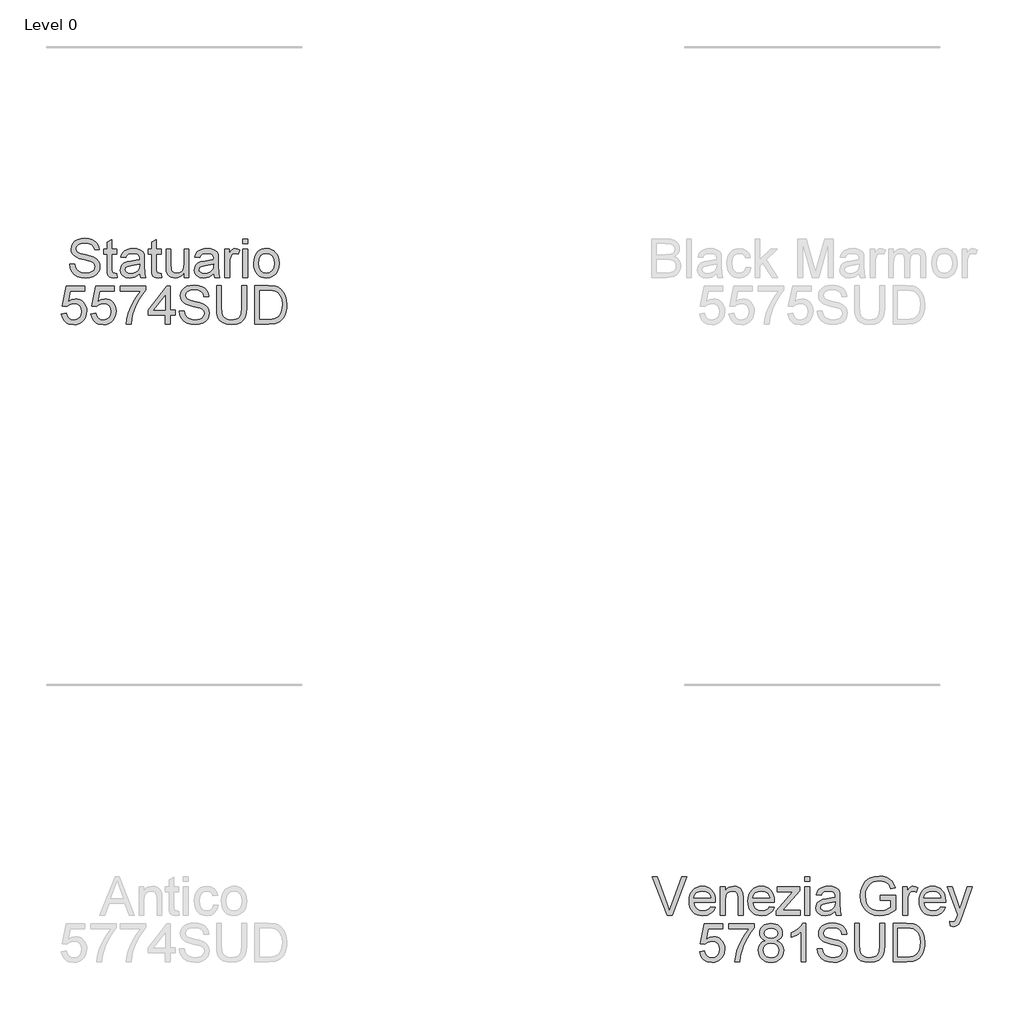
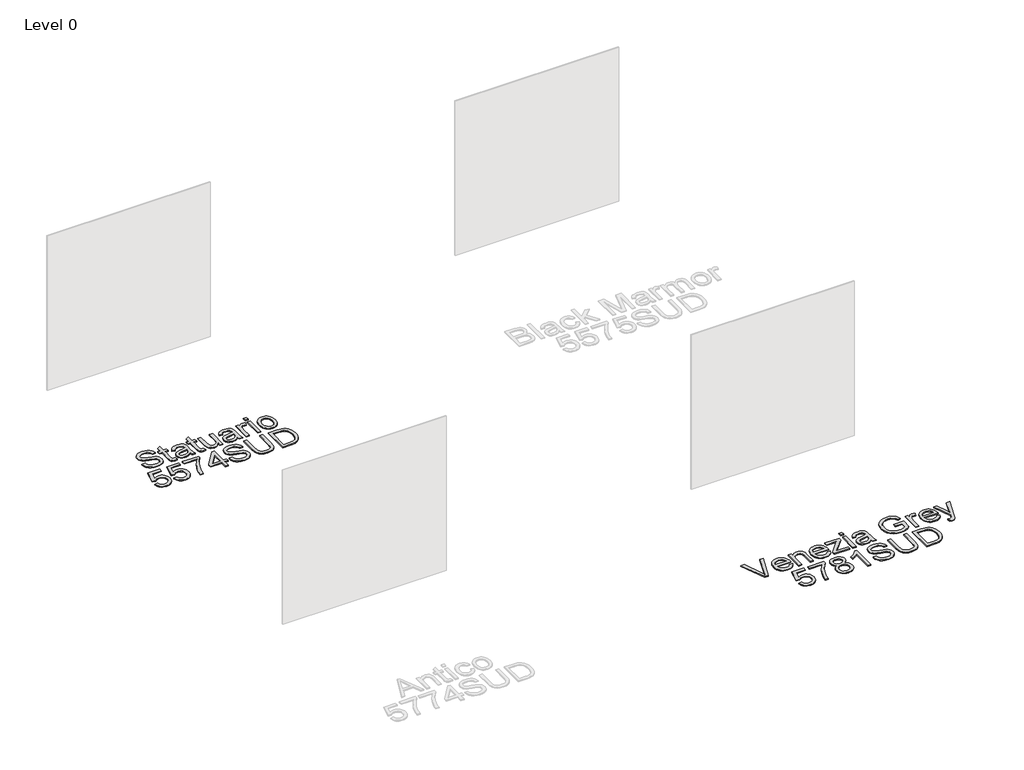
# One storey, part 4 of 12: 2 proxies.
"""IFC4 building model written with IfcOpenShell, lengths in millimetres."""

from ifc_helpers import new_model, si_unit, origin, origin_with_axes, place, context, project, spatial, polyline, outline, extrude, element, save

model = new_model("IFC4")

# Units and contexts
model_context = context("Model", 3, world=origin())
ifc_project = project(units=[si_unit("LENGTHUNIT", "METRE", prefix="MILLI")], contexts=[model_context])

# Site, building, storey
site = spatial("IfcSite", under=ifc_project)
building = spatial("IfcBuilding", under=site)
storey = spatial("IfcBuildingStorey", under=building, Name="Level 0", Elevation=0.0)

# Proxies
placement = place(None, origin())
element("IfcBuildingElementProxy", 1, Name="300mm Arial", ObjectType="300mm Arial", at=placement, inside=storey, context=model_context, shape_type="SweptSolid", body=[
    extrude(outline(polyline([(-10267.6503912, -6899.2649241), (-10229.9792749, -6899.2649241), (-10225.6566614, -6920.1698185), (-10217.839169, -6936.9728286), (-10205.6438809, -6950.308551), (-10188.1878802, -6960.8115819), (-10166.8507245, -6967.6265959), (-10143.0119712, -6969.8982672), (-10122.0243034, -6968.1784189), (-10103.6485977, -6963.0188739), (-10088.758574, -6954.8518936), (-10078.2279519, -6944.1097394), (-10071.9647609, -6931.7764955), (-10069.8770306, -6918.8362463), (-10071.4405291, -6906.2270909), (-10076.1310245, -6895.3285868), (-10085.6591682, -6886.0303694), (-10101.7356114, -6878.222074), (-10156.5868169, -6863.837888), (-10192.5932671, -6854.3189414), (-10215.6318771, -6845.2598472), (-10234.3846618, -6832.5863125), (-10247.6743989, -6817.2272392), (-10255.5930588, -6799.5137211), (-10258.2326121, -6779.7768521), (-10254.9676594, -6757.7131294), (-10245.1728013, -6737.1393289), (-10229.1055552, -6719.7017223), (-10207.0234384, -6707.0465817), (-10180.5175406, -6699.3486509), (-10151.1789515, -6696.782674), (-10119.3939471, -6699.4682126), (-10091.5820683, -6707.5248283), (-10068.7365964, -6720.7869742), (-10051.8508128, -6739.0891034), (-10041.1638409, -6761.2907818), (-10036.9148038, -6786.2515752), (-10074.5859201, -6786.2515752), (-10081.5021016, -6763.7739853), (-10095.9230758, -6747.5503893), (-10118.4558481, -6737.7279401), (-10149.7074235, -6734.4537903), (-10181.694763, -6737.6911519), (-10203.638924, -6747.4032365), (-10216.3308529, -6761.695452), (-10220.5614958, -6778.6732061), (-10217.5632576, -6793.1493626), (-10208.5685428, -6804.7928278), (-10187.3049634, -6815.2038882), (-10147.0586732, -6825.8356779), (-10105.5247959, -6835.9340387), (-10080.3984557, -6844.7448125), (-10058.9233442, -6858.4116286), (-10043.9413499, -6875.2790181), (-10035.1397732, -6895.1630399), (-10032.2059143, -6917.8797531), (-10035.5812316, -6941.102304), (-10045.7071835, -6962.9452975), (-10062.1699028, -6981.7440675), (-10084.5555222, -6995.8339479), (-10111.4752872, -7004.6355246), (-10141.5404432, -7007.5693835), (-10178.4482044, -7004.4055984), (-10208.8260602, -6994.9142429), (-10233.0234984, -6979.0585289), (-10251.390007, -6956.8016682), (-10263.180625, -6929.6887651), (-10267.6503912, -6899.2649241)])), origin_with_axes(), (0.0, 0.0, 1.0), 10.0),
    extrude(outline(polyline([(-9900.3570072, -6971.4433716), (-9895.6481177, -7003.96414), (-9923.8278785, -7007.5693835), (-9941.9092786, -7006.005885), (-9955.3921537, -7001.3153896), (-9964.9202974, -6994.0865084), (-9971.1375031, -6984.9078526), (-9974.5588056, -6969.1441091), (-9975.6992398, -6942.1599648), (-9975.6992398, -6819.213802), (-10003.9525771, -6819.213802), (-10003.9525771, -6781.5426857), (-9975.6992398, -6781.5426857), (-9975.6992398, -6727.758338), (-9938.0281235, -6705.6118419), (-9938.0281235, -6781.5426857), (-9900.3570072, -6781.5426857), (-9900.3570072, -6819.213802), (-9938.0281235, -6819.213802), (-9938.0281235, -6941.0563188), (-9936.0415607, -6960.4804881), (-9929.6036258, -6967.3598814), (-9916.7645442, -6969.8982672), (-9900.3570072, -6971.4433716)])), origin_with_axes(), (0.0, 0.0, 1.0), 10.0),
    extrude(outline(polyline([(-9721.4192048, -6974.6071568), (-9739.4178314, -6990.0398064), (-9757.9498869, -7000.1381672), (-9777.4384356, -7005.7115794), (-9798.3065417, -7007.5693835), (-9829.7880435, -7003.0996173), (-9853.0105944, -6989.6903186), (-9867.3304011, -6969.3280501), (-9872.10367, -6943.9993748), (-9870.3010482, -6928.3827841), (-9864.8931829, -6914.2009331), (-9856.5514586, -6902.0608273), (-9845.9472601, -6892.5694718), (-9819.5701211, -6880.2086368), (-9786.9757763, -6874.5432541), (-9748.4585314, -6868.5835657), (-9721.639934, -6861.5938078), (-9721.4192048, -6853.2060983), (-9724.0127728, -6836.3938912), (-9731.793477, -6825.3942195), (-9749.1942954, -6817.2272392), (-9773.4377189, -6814.5049125), (-9795.8785206, -6816.3167313), (-9811.5502936, -6821.7521878), (-9822.2372655, -6831.8045633), (-9829.7236641, -6847.4671392), (-9867.3947804, -6842.7582497), (-9860.855678, -6822.156858), (-9851.0976081, -6805.9700502), (-9837.2100627, -6793.590821), (-9818.2825341, -6784.4121652), (-9795.1335595, -6778.7283884), (-9768.5816765, -6776.8337961), (-9743.1150454, -6778.5076592), (-9722.9275209, -6783.5292485), (-9707.7064034, -6791.0800264), (-9697.1389931, -6800.3414556), (-9690.1308411, -6811.7917827), (-9685.5874984, -6825.9092543), (-9683.7480885, -6858.8714811), (-9683.7480885, -6905.7396473), (-9681.8351021, -6971.1858542), (-9674.3303094, -7002.860494), (-9712.0014257, -7002.860494), (-9721.4192048, -6974.6071568)]), holes=[polyline([(-9721.4192048, -6899.2649241), (-9782.1933104, -6910.8164188), (-9814.6037141, -6916.9232599), (-9829.2822057, -6926.8560738), (-9834.4325537, -6941.3506244), (-9831.6274535, -6952.5526311), (-9823.2121528, -6961.7312869), (-9809.3705928, -6967.8565221), (-9790.2867143, -6969.8982672), (-9770.0532045, -6967.64499), (-9752.1741396, -6960.8851583), (-9737.6795889, -6950.9247533), (-9727.5996223, -6939.069756), (-9723.129856, -6926.8560738), (-9721.639934, -6909.933502), (-9721.4192048, -6899.2649241)])]), origin_with_axes(), (0.0, 0.0, 1.0), 10.0),
    extrude(outline(polyline([(-9551.8991814, -6971.4433716), (-9547.1902918, -7003.96414), (-9575.3700527, -7007.5693835), (-9593.4514527, -7006.005885), (-9606.9343279, -7001.3153896), (-9616.4624715, -6994.0865084), (-9622.6796773, -6984.9078526), (-9626.1009798, -6969.1441091), (-9627.241414, -6942.1599648), (-9627.241414, -6819.213802), (-9655.4947512, -6819.213802), (-9655.4947512, -6781.5426857), (-9627.241414, -6781.5426857), (-9627.241414, -6727.758338), (-9589.5702977, -6705.6118419), (-9589.5702977, -6781.5426857), (-9551.8991814, -6781.5426857), (-9551.8991814, -6819.213802), (-9589.5702977, -6819.213802), (-9589.5702977, -6941.0563188), (-9587.5837349, -6960.4804881), (-9581.1458, -6967.3598814), (-9568.3067184, -6969.8982672), (-9551.8991814, -6971.4433716)])), origin_with_axes(), (0.0, 0.0, 1.0), 10.0),
    extrude(outline(polyline([(-9372.9613789, -7002.860494), (-9372.9613789, -6964.8214957), (-9386.5914068, -6983.5236966), (-9402.4655149, -6996.8824116), (-9420.5837032, -7004.8976405), (-9440.9459716, -7007.5693835), (-9459.2940861, -7005.6931853), (-9476.3730078, -7000.0645908), (-9490.7020115, -6991.6033049), (-9500.8003722, -6981.2290327), (-9512.0207731, -6953.4907302), (-9514.2280651, -6918.4683643), (-9514.2280651, -6781.5426857), (-9476.5569488, -6781.5426857), (-9476.5569488, -6900.7364521), (-9474.2760804, -6939.1433324), (-9468.7854416, -6951.9548229), (-9459.3768596, -6961.6944987), (-9446.6757337, -6967.8473251), (-9431.3074634, -6969.8982672), (-9415.0562762, -6967.8013398), (-9399.8535528, -6961.5105577), (-9387.3179738, -6951.605335), (-9379.06822, -6938.6650858), (-9374.4880892, -6920.9423707), (-9372.9613789, -6896.6897502), (-9372.9613789, -6781.5426857), (-9335.2902626, -6781.5426857), (-9335.2902626, -7002.860494), (-9372.9613789, -7002.860494)])), origin_with_axes(), (0.0, 0.0, 1.0), 10.0),
    extrude(outline(polyline([(-9142.2257916, -6974.6071568), (-9160.2244182, -6990.0398064), (-9178.7564737, -7000.1381672), (-9198.2450224, -7005.7115794), (-9219.1131285, -7007.5693835), (-9250.5946303, -7003.0996173), (-9273.8171812, -6989.6903186), (-9288.1369879, -6969.3280501), (-9292.9102568, -6943.9993748), (-9291.107635, -6928.3827841), (-9285.6997697, -6914.2009331), (-9277.3580454, -6902.0608273), (-9266.7538469, -6892.5694718), (-9240.3767079, -6880.2086368), (-9207.7823631, -6874.5432541), (-9169.2651182, -6868.5835657), (-9142.4465207, -6861.5938078), (-9142.2257916, -6853.2060983), (-9144.8193596, -6836.3938912), (-9152.6000638, -6825.3942195), (-9170.0008822, -6817.2272392), (-9194.2443057, -6814.5049125), (-9216.6851074, -6816.3167313), (-9232.3568804, -6821.7521878), (-9243.0438523, -6831.8045633), (-9250.5302509, -6847.4671392), (-9288.2013672, -6842.7582497), (-9281.6622648, -6822.156858), (-9271.9041949, -6805.9700502), (-9258.0166495, -6793.590821), (-9239.0891209, -6784.4121652), (-9215.9401463, -6778.7283884), (-9189.3882633, -6776.8337961), (-9163.9216322, -6778.5076592), (-9143.7341077, -6783.5292485), (-9128.5129902, -6791.0800264), (-9117.9455799, -6800.3414556), (-9110.9374279, -6811.7917827), (-9106.3940852, -6825.9092543), (-9104.5546752, -6858.8714811), (-9104.5546752, -6905.7396473), (-9102.6416889, -6971.1858542), (-9095.1368962, -7002.860494), (-9132.8080125, -7002.860494), (-9142.2257916, -6974.6071568)]), holes=[polyline([(-9142.2257916, -6899.2649241), (-9202.9998972, -6910.8164188), (-9235.4103009, -6916.9232599), (-9250.0887925, -6926.8560738), (-9255.2391405, -6941.3506244), (-9252.4340403, -6952.5526311), (-9244.0187396, -6961.7312869), (-9230.1771795, -6967.8565221), (-9211.093301, -6969.8982672), (-9190.8597913, -6967.64499), (-9172.9807263, -6960.8851583), (-9158.4861757, -6950.9247533), (-9148.4062091, -6939.069756), (-9143.9364428, -6926.8560738), (-9142.4465207, -6909.933502), (-9142.2257916, -6899.2649241)])]), origin_with_axes(), (0.0, 0.0, 1.0), 10.0),
    extrude(outline(polyline([(-9052.7568903, -7002.860494), (-9052.7568903, -6781.5426857), (-9019.7946636, -6781.5426857), (-9019.7946636, -6814.2841833), (-9007.6177695, -6795.3014723), (-8996.3973687, -6784.1178596), (-8985.1401796, -6778.654812), (-8972.852921, -6776.8337961), (-8954.0909392, -6779.7400639), (-8935.0346519, -6788.4588672), (-8947.6162161, -6822.2304343), (-8960.8599679, -6816.4362929), (-8974.1037198, -6814.5049125), (-8985.3517118, -6816.3627165), (-8995.4040873, -6821.9361288), (-9003.5250823, -6830.8020848), (-9008.9789329, -6842.5375205), (-9013.5590637, -6863.5803706), (-9015.085774, -6886.5362071), (-9015.085774, -7002.860494), (-9052.7568903, -7002.860494)])), origin_with_axes(), (0.0, 0.0, 1.0), 10.0),
    extrude(outline(polyline([(-8911.4902042, -6739.1626798), (-8911.4902042, -6701.4915635), (-8873.8190879, -6701.4915635), (-8873.8190879, -6739.1626798), (-8911.4902042, -6739.1626798)])), origin_with_axes(), (0.0, 0.0, 1.0), 10.0),
    extrude(outline(polyline([(-8911.4902042, -7002.860494), (-8911.4902042, -6781.5426857), (-8873.8190879, -6781.5426857), (-8873.8190879, -7002.860494), (-8911.4902042, -7002.860494)])), origin_with_axes(), (0.0, 0.0, 1.0), 10.0),
    extrude(outline(polyline([(-8826.7301925, -6892.2015898), (-8824.6930459, -6863.5389839), (-8818.5816063, -6838.8403064), (-8808.3958736, -6818.1055575), (-8794.1358477, -6801.334737), (-8779.7792529, -6790.6155754), (-8763.9327359, -6782.9590314), (-8746.5962969, -6778.3651049), (-8727.7699358, -6776.8337961), (-8706.9869023, -6778.698498), (-8688.1950302, -6784.2926036), (-8671.3943193, -6793.6161129), (-8656.5847697, -6806.669026), (-8644.4975469, -6823.0098843), (-8635.8638163, -6842.1972296), (-8630.683578, -6864.2310619), (-8628.9568319, -6889.1113811), (-8632.0102524, -6927.1687735), (-8641.1705141, -6956.1394806), (-8656.1709025, -6977.8353213), (-8676.7447031, -6994.0681143), (-8701.1812646, -7004.1940662), (-8727.7699358, -7007.5693835), (-8748.8564719, -7005.7115794), (-8767.823088, -7000.1381672), (-8784.6697841, -6990.8491468), (-8799.3965602, -6977.8445183), (-8811.3550244, -6961.3450108), (-8819.8967844, -6941.5713536), (-8825.0218405, -6918.5235466), (-8826.7301925, -6892.2015898)]), holes=[polyline([(-8789.0590762, -6892.1280134), (-8784.6996745, -6926.2214773), (-8771.6214696, -6950.5108861), (-8751.9397829, -6965.0514219), (-8727.7699358, -6969.8982672), (-8703.7104533, -6965.0238308), (-8684.0655548, -6950.4005215), (-8670.9873498, -6925.789216), (-8666.6279482, -6890.950791), (-8671.014941, -6857.8506085), (-8684.1759194, -6833.8922936), (-8703.848409, -6819.3517577), (-8727.7699358, -6814.5049125), (-8751.9397829, -6819.3333636), (-8771.6214696, -6833.8187172), (-8784.6996745, -6858.0529436), (-8789.0590762, -6892.1280134)])]), origin_with_axes(), (0.0, 0.0, 1.0), 10.0),
    extrude(outline(polyline([(-10333.5748447, -7288.7338254), (-10295.9037284, -7284.0249358), (-10288.9875469, -7306.6404815), (-10276.9210175, -7322.8364863), (-10259.7593224, -7332.5761621), (-10237.557644, -7335.8227207), (-10210.5551055, -7331.3069693), (-10190.3215958, -7317.7597148), (-10177.6848493, -7296.7444558), (-10173.4726004, -7269.8246908), (-10177.4181348, -7244.4776213), (-10189.254738, -7225.0902402), (-10209.0743805, -7212.7845875), (-10236.9690328, -7208.6827032), (-10255.2435709, -7210.3197781), (-10270.0416242, -7215.2310027), (-10291.1948389, -7232.2271509), (-10328.8659552, -7227.5182614), (-10295.9037284, -7072.1249066), (-10149.9281527, -7072.1249066), (-10149.9281527, -7109.7960229), (-10265.4430992, -7109.7960229), (-10281.5563306, -7192.790201), (-10254.6457627, -7176.4562404), (-10226.4476077, -7171.0115869), (-10208.1017925, -7172.6992456), (-10191.2504978, -7177.7622215), (-10175.8937238, -7186.2005148), (-10162.0314704, -7198.0141254), (-10150.5558514, -7212.4810848), (-10142.3589807, -7228.8794248), (-10137.4408583, -7247.2091452), (-10135.8014841, -7267.470246), (-10141.7059901, -7305.1413624), (-10149.0866227, -7321.9351754), (-10159.4195082, -7337.3678251), (-10175.0728871, -7353.1729553), (-10193.3382282, -7364.4623341), (-10214.2155314, -7371.2359613), (-10237.7047968, -7373.4938371), (-10274.7045285, -7367.6904986), (-10290.3831992, -7360.4363255), (-10304.1810733, -7350.2804832), (-10315.6612908, -7337.7288093), (-10324.3869919, -7323.2871418), (-10333.5748447, -7288.7338254)])), origin_with_axes(), (0.0, 0.0, 1.0), 10.0),
    extrude(outline(polyline([(-10102.8392574, -7288.7338254), (-10065.1681411, -7284.0249358), (-10058.2519595, -7306.6404815), (-10046.1854301, -7322.8364863), (-10029.023735, -7332.5761621), (-10006.8220566, -7335.8227207), (-9979.8195182, -7331.3069693), (-9959.5860084, -7317.7597148), (-9946.9492619, -7296.7444558), (-9942.7370131, -7269.8246908), (-9946.6825475, -7244.4776213), (-9958.5191506, -7225.0902402), (-9978.3387931, -7212.7845875), (-10006.2334454, -7208.6827032), (-10024.5079835, -7210.3197781), (-10039.3060368, -7215.2310027), (-10060.4592515, -7232.2271509), (-10098.1303678, -7227.5182614), (-10065.1681411, -7072.1249066), (-9919.1925654, -7072.1249066), (-9919.1925654, -7109.7960229), (-10034.7075119, -7109.7960229), (-10050.8207432, -7192.790201), (-10023.9101753, -7176.4562404), (-9995.7120204, -7171.0115869), (-9977.3662051, -7172.6992456), (-9960.5149105, -7177.7622215), (-9945.1581364, -7186.2005148), (-9931.295883, -7198.0141254), (-9919.820264, -7212.4810848), (-9911.6233933, -7228.8794248), (-9906.7052709, -7247.2091452), (-9905.0658967, -7267.470246), (-9910.9704028, -7305.1413624), (-9918.3510353, -7321.9351754), (-9928.6839208, -7337.3678251), (-9944.3372997, -7353.1729553), (-9962.6026408, -7364.4623341), (-9983.479944, -7371.2359613), (-10006.9692094, -7373.4938371), (-10043.9689411, -7367.6904986), (-10059.6476119, -7360.4363255), (-10073.4454859, -7350.2804832), (-10084.9257035, -7337.7288093), (-10093.6514045, -7323.2871418), (-10102.8392574, -7288.7338254)])), origin_with_axes(), (0.0, 0.0, 1.0), 10.0),
    extrude(outline(polyline([(-9872.10367, -7109.7960229), (-9872.10367, -7072.1249066), (-9674.3303094, -7072.1249066), (-9674.3303094, -7102.5855358), (-9702.5192673, -7138.2608923), (-9730.4323136, -7183.6299393), (-9755.0528162, -7234.5540045), (-9773.3641425, -7286.8944154), (-9782.3404632, -7326.0554538), (-9787.3436583, -7368.7849475), (-9825.0147746, -7368.7849475), (-9820.9404815, -7329.9550029), (-9810.0419774, -7283.8042066), (-9792.6135679, -7234.8850983), (-9768.9495585, -7187.7502177), (-9741.3216207, -7145.1402856), (-9712.0014257, -7109.7960229), (-9872.10367, -7109.7960229)])), origin_with_axes(), (0.0, 0.0, 1.0), 10.0),
    extrude(outline(polyline([(-9518.9369546, -7368.7849475), (-9518.9369546, -7298.1516044), (-9655.4947512, -7298.1516044), (-9655.4947512, -7260.4804881), (-9509.5191755, -7072.1249066), (-9481.2658383, -7072.1249066), (-9481.2658383, -7260.4804881), (-9443.594722, -7260.4804881), (-9443.594722, -7298.1516044), (-9481.2658383, -7298.1516044), (-9481.2658383, -7368.7849475), (-9518.9369546, -7368.7849475)]), holes=[polyline([(-9518.9369546, -7260.4804881), (-9518.9369546, -7144.0826249), (-9609.1416198, -7260.4804881), (-9518.9369546, -7260.4804881)])]), origin_with_axes(), (0.0, 0.0, 1.0), 10.0),
    extrude(outline(polyline([(-9410.6324952, -7265.1893777), (-9372.9613789, -7265.1893777), (-9368.6387655, -7286.0942721), (-9360.8212731, -7302.8972822), (-9348.6259849, -7316.2330045), (-9331.1699843, -7326.7360355), (-9309.8328286, -7333.5510494), (-9285.9940753, -7335.8227207), (-9265.0064074, -7334.1028724), (-9246.6307018, -7328.9433274), (-9231.740678, -7320.7763471), (-9221.2100559, -7310.0341929), (-9214.9468649, -7297.700949), (-9212.8591346, -7284.7606998), (-9214.4226331, -7272.1515444), (-9219.1131285, -7261.2530403), (-9228.6412722, -7251.9548229), (-9244.7177154, -7244.1465276), (-9299.5689209, -7229.7623415), (-9335.5753712, -7220.2433949), (-9358.6139811, -7211.1843008), (-9377.3667658, -7198.510766), (-9390.6565029, -7183.1516928), (-9398.5751628, -7165.4381747), (-9401.2147162, -7145.7013056), (-9397.9497634, -7123.637583), (-9388.1549053, -7103.0637824), (-9372.0876592, -7085.6261758), (-9350.0055424, -7072.9710352), (-9323.4996447, -7065.2731044), (-9294.1610556, -7062.7071275), (-9262.3760512, -7065.3926661), (-9234.5641723, -7073.4492818), (-9211.7187004, -7086.7114277), (-9194.8329169, -7105.013557), (-9184.1459449, -7127.2152354), (-9179.8969079, -7152.1760288), (-9217.5680242, -7152.1760288), (-9224.4842057, -7129.6984389), (-9238.9051799, -7113.4748429), (-9261.4379521, -7103.6523936), (-9292.6895276, -7100.3782438), (-9324.6768671, -7103.6156054), (-9346.6210281, -7113.3276901), (-9359.3129569, -7127.6199056), (-9363.5435998, -7144.5976597), (-9360.5453616, -7159.0738162), (-9351.5506468, -7170.7172813), (-9330.2870675, -7181.1283418), (-9290.0407772, -7191.7601314), (-9248.5069, -7201.8584922), (-9223.3805597, -7210.669266), (-9201.9054482, -7224.3360821), (-9186.923454, -7241.2034716), (-9178.1218772, -7261.0874934), (-9175.1880183, -7283.8042066), (-9178.5633356, -7307.0267576), (-9188.6892875, -7328.869751), (-9205.1520068, -7347.668521), (-9227.5376262, -7361.7584014), (-9254.4573912, -7370.5599781), (-9284.5225473, -7373.4938371), (-9321.4303085, -7370.3300519), (-9351.8081642, -7360.8386964), (-9376.0056024, -7344.9829824), (-9394.372111, -7322.7261217), (-9406.162729, -7295.6132187), (-9410.6324952, -7265.1893777)])), origin_with_axes(), (0.0, 0.0, 1.0), 10.0),
    extrude(outline(polyline([(-8920.9079833, -7067.4160171), (-8883.2368669, -7067.4160171), (-8883.2368669, -7241.277048), (-8885.7936468, -7281.9923878), (-8893.4639864, -7313.3451308), (-8907.7929901, -7337.533372), (-8930.3257623, -7356.7552063), (-8961.1174853, -7369.3091794), (-9000.2233414, -7373.4938371), (-9038.4738719, -7369.8518053), (-9069.0540627, -7358.92571), (-9091.973111, -7341.0926303), (-9107.2402138, -7316.7296452), (-9115.8210613, -7284.052527), (-9118.6813439, -7241.277048), (-9118.6813439, -7067.4160171), (-9081.0102276, -7067.4160171), (-9081.0102276, -7239.9526728), (-9079.1524235, -7273.8070134), (-9073.5790113, -7297.3790523), (-9063.4806505, -7313.7038158), (-9048.0480008, -7325.8163305), (-9027.9248556, -7333.3211232), (-9003.7550086, -7335.8227207), (-8965.4400988, -7330.8747079), (-8951.0972995, -7324.6896919), (-8939.9642706, -7316.0306694), (-8931.6271449, -7303.8537754), (-8925.6720551, -7287.1151446), (-8920.9079833, -7239.9526728), (-8920.9079833, -7067.4160171)])), origin_with_axes(), (0.0, 0.0, 1.0), 10.0),
    extrude(outline(polyline([(-8817.3124134, -7368.7849475), (-8817.3124134, -7067.4160171), (-8713.3489616, -7067.4160171), (-8659.5646139, -7071.7570246), (-8635.5419196, -7080.12634), (-8615.2716217, -7093.3149095), (-8594.4311066, -7116.270746), (-8579.5870681, -7144.8183889), (-8570.7027179, -7178.406015), (-8567.7412679, -7216.4818015), (-8569.7462248, -7248.8278259), (-8575.7610954, -7277.2926953), (-8584.9213571, -7301.5269217), (-8596.3624871, -7321.1810173), (-8609.5326625, -7336.6964405), (-8623.8800603, -7348.5146496), (-8640.3519767, -7357.2794381), (-8659.8957077, -7363.6345996), (-8708.3457664, -7368.7849475), (-8817.3124134, -7368.7849475)]), holes=[polyline([(-8779.6412971, -7331.1138312), (-8712.9810796, -7331.1138312), (-8685.408324, -7329.7526678), (-8664.4942326, -7325.6691777), (-8648.712095, -7319.1024841), (-8636.535201, -7310.2917103), (-8623.447799, -7293.9853408), (-8613.6161527, -7272.8781114), (-8607.4633263, -7246.8780514), (-8605.4123842, -7215.8931903), (-8609.431495, -7174.8375597), (-8621.4888274, -7144.5240833), (-8639.303513, -7123.7019623), (-8660.5946835, -7111.1203981), (-8682.262933, -7106.5954496), (-8714.0111492, -7105.0871334), (-8779.6412971, -7105.0871334), (-8779.6412971, -7331.1138312)])]), origin_with_axes(), (0.0, 0.0, 1.0), 10.0),
])
element("IfcBuildingElementProxy", 2, Name="300mm Arial", ObjectType="300mm Arial", at=placement, inside=storey, context=model_context, shape_type="SweptSolid", body=[
    extrude(outline(polyline([(-5585.9418934, -12002.860494), (-5705.8714239, -11701.4915635), (-5665.5515572, -11701.4915635), (-5585.2797058, -11918.6155171), (-5569.0193216, -11967.5438224), (-5552.9796667, -11918.6155171), (-5472.4870861, -11701.4915635), (-5432.1672194, -11701.4915635), (-5547.0199783, -12002.860494), (-5585.9418934, -12002.860494)])), origin_with_axes(), (0.0, 0.0, 1.0), 10.0),
    extrude(outline(polyline([(-5246.9018467, -11936.9360404), (-5209.9664944, -11941.64493), (-5223.2746255, -11969.4752029), (-5244.5106137, -11990.2789297), (-5273.1962123, -12003.2467701), (-5308.8531747, -12007.5693835), (-5332.2274769, -12005.7046817), (-5353.0541964, -12000.1105761), (-5371.333333, -11990.7870668), (-5387.0648868, -11977.7341537), (-5399.7154289, -11961.3151204), (-5408.7515304, -11941.8932503), (-5414.1731913, -11919.4685435), (-5415.9804117, -11894.0409998), (-5414.1547973, -11867.7512327), (-5408.677954, -11844.5792656), (-5399.549882, -11824.5250983), (-5386.7705812, -11807.5887309), (-5371.0804141, -11794.133447), (-5353.2197433, -11784.5225298), (-5333.1885686, -11778.7559796), (-5310.9868902, -11776.8337961), (-5289.5002824, -11778.751381), (-5270.0692153, -11784.5041357), (-5252.6936888, -11794.0920602), (-5237.373703, -11807.5151545), (-5224.8680144, -11824.4147337), (-5215.9353797, -11844.4321128), (-5210.5757989, -11867.5672917), (-5208.789272, -11893.8202706), (-5209.0100012, -11903.9738137), (-5378.3092953, -11903.9738137), (-5371.788587, -11932.1719686), (-5356.6410458, -11952.902119), (-5334.7796583, -11965.6492302), (-5308.1174107, -11969.8982672), (-5288.0678419, -11967.9300985), (-5271.1820583, -11962.0255925), (-5257.4600599, -11951.8168672), (-5246.9018467, -11936.9360404)]), holes=[polyline([(-5378.3092953, -11866.3026974), (-5246.4603883, -11866.3026974), (-5251.5555539, -11846.4002814), (-5261.5435501, -11832.1632482), (-5283.5061052, -11818.9194964), (-5311.134043, -11814.5049125), (-5336.5270977, -11818.0273826), (-5357.5239626, -11828.5947929), (-5372.1196808, -11845.0667092), (-5378.3092953, -11866.3026974)])]), origin_with_axes(), (0.0, 0.0, 1.0), 10.0),
    extrude(outline(polyline([(-5171.1181557, -12002.860494), (-5171.1181557, -11781.5426857), (-5133.4470394, -11781.5426857), (-5133.4470394, -11812.4447733), (-5120.3596374, -11796.8649708), (-5104.6418791, -11785.7365404), (-5086.2937646, -11779.0594822), (-5065.3152938, -11776.8337961), (-5046.7464501, -11778.6272209), (-5029.7411049, -11784.0074951), (-5015.559254, -11792.303234), (-5005.4608932, -11802.8430532), (-4994.166916, -11830.5445674), (-4992.1803532, -11866.964885), (-4992.1803532, -12002.860494), (-5029.8514695, -12002.860494), (-5029.8514695, -11872.0416565), (-5034.1924771, -11838.7115477), (-5040.1981506, -11828.7879309), (-5049.5331563, -11821.0900002), (-5061.4985181, -11816.1511844), (-5075.3952605, -11814.5049125), (-5097.4589832, -11818.2021265), (-5116.2669502, -11829.2937687), (-5123.7832392, -11838.3482643), (-5129.1520171, -11850.7228949), (-5133.4470394, -11885.4325611), (-5133.4470394, -12002.860494), (-5171.1181557, -12002.860494)])), origin_with_axes(), (0.0, 0.0, 1.0), 10.0),
    extrude(outline(polyline([(-4785.4306719, -11936.9360404), (-4748.4953196, -11941.64493), (-4761.8034508, -11969.4752029), (-4783.0394389, -11990.2789297), (-4811.7250375, -12003.2467701), (-4847.3819999, -12007.5693835), (-4870.7563022, -12005.7046817), (-4891.5830216, -12000.1105761), (-4909.8621583, -11990.7870668), (-4925.5937121, -11977.7341537), (-4938.2442542, -11961.3151204), (-4947.2803557, -11941.8932503), (-4952.7020166, -11919.4685435), (-4954.5092369, -11894.0409998), (-4952.6836225, -11867.7512327), (-4947.2067793, -11844.5792656), (-4938.0787073, -11824.5250983), (-4925.2994065, -11807.5887309), (-4909.6092394, -11794.133447), (-4891.7485685, -11784.5225298), (-4871.7173939, -11778.7559796), (-4849.5157155, -11776.8337961), (-4828.0291077, -11778.751381), (-4808.5980406, -11784.5041357), (-4791.2225141, -11794.0920602), (-4775.9025282, -11807.5151545), (-4763.3968397, -11824.4147337), (-4754.464205, -11844.4321128), (-4749.1046242, -11867.5672917), (-4747.3180972, -11893.8202706), (-4747.5388264, -11903.9738137), (-4916.8381206, -11903.9738137), (-4910.3174122, -11932.1719686), (-4895.1698711, -11952.902119), (-4873.3084835, -11965.6492302), (-4846.6462359, -11969.8982672), (-4826.5966672, -11967.9300985), (-4809.7108836, -11962.0255925), (-4795.9888852, -11951.8168672), (-4785.4306719, -11936.9360404)]), holes=[polyline([(-4916.8381206, -11866.3026974), (-4784.9892135, -11866.3026974), (-4790.0843792, -11846.4002814), (-4800.0723753, -11832.1632482), (-4822.0349304, -11818.9194964), (-4849.6628683, -11814.5049125), (-4875.055923, -11818.0273826), (-4896.0527879, -11828.5947929), (-4910.648506, -11845.0667092), (-4916.8381206, -11866.3026974)])]), origin_with_axes(), (0.0, 0.0, 1.0), 10.0),
    extrude(outline(polyline([(-4733.1914286, -12002.860494), (-4733.1914286, -11967.3966696), (-4603.1819315, -11819.213802), (-4641.6623882, -11819.213802), (-4723.7736495, -11819.213802), (-4723.7736495, -11781.5426857), (-4549.5447366, -11781.5426857), (-4549.5447366, -11813.5484193), (-4664.8389539, -11945.0294443), (-4682.4972897, -11965.1893777), (-4638.9400614, -11965.1893777), (-4544.8358471, -11965.1893777), (-4544.8358471, -12002.860494), (-4733.1914286, -12002.860494)])), origin_with_axes(), (0.0, 0.0, 1.0), 10.0),
    extrude(outline(polyline([(-4507.1647308, -11739.1626798), (-4507.1647308, -11701.4915635), (-4469.4936145, -11701.4915635), (-4469.4936145, -11739.1626798), (-4507.1647308, -11739.1626798)])), origin_with_axes(), (0.0, 0.0, 1.0), 10.0),
    extrude(outline(polyline([(-4507.1647308, -12002.860494), (-4507.1647308, -11781.5426857), (-4469.4936145, -11781.5426857), (-4469.4936145, -12002.860494), (-4507.1647308, -12002.860494)])), origin_with_axes(), (0.0, 0.0, 1.0), 10.0),
    extrude(outline(polyline([(-4271.7202539, -11974.6071568), (-4289.7188805, -11990.0398064), (-4308.250936, -12000.1381672), (-4327.7394847, -12005.7115794), (-4348.6075908, -12007.5693835), (-4380.0890926, -12003.0996173), (-4403.3116435, -11989.6903186), (-4417.6314502, -11969.3280501), (-4422.4047191, -11943.9993748), (-4420.6020973, -11928.3827841), (-4415.194232, -11914.2009331), (-4406.8525077, -11902.0608273), (-4396.2483092, -11892.5694718), (-4369.8711702, -11880.2086368), (-4337.2768254, -11874.5432541), (-4298.7595805, -11868.5835657), (-4271.9409831, -11861.5938078), (-4271.7202539, -11853.2060983), (-4274.3138219, -11836.3938912), (-4282.0945261, -11825.3942195), (-4299.4953445, -11817.2272392), (-4323.738768, -11814.5049125), (-4346.1795697, -11816.3167313), (-4361.8513427, -11821.7521878), (-4372.5383146, -11831.8045633), (-4380.0247132, -11847.4671392), (-4417.6958295, -11842.7582497), (-4411.1567271, -11822.156858), (-4401.3986572, -11805.9700502), (-4387.5111118, -11793.590821), (-4368.5835832, -11784.4121652), (-4345.4346086, -11778.7283884), (-4318.8827256, -11776.8337961), (-4293.4160945, -11778.5076592), (-4273.22857, -11783.5292485), (-4258.0074525, -11791.0800264), (-4247.4400422, -11800.3414556), (-4240.4318902, -11811.7917827), (-4235.8885475, -11825.9092543), (-4234.0491375, -11858.8714811), (-4234.0491375, -11905.7396473), (-4232.1361512, -11971.1858542), (-4224.6313585, -12002.860494), (-4262.3024748, -12002.860494), (-4271.7202539, -11974.6071568)]), holes=[polyline([(-4271.7202539, -11899.2649241), (-4332.4943595, -11910.8164188), (-4364.9047632, -11916.9232599), (-4379.5832548, -11926.8560738), (-4384.7336028, -11941.3506244), (-4381.9285026, -11952.5526311), (-4373.5132019, -11961.7312869), (-4359.6716419, -11967.8565221), (-4340.5877634, -11969.8982672), (-4320.3542536, -11967.64499), (-4302.4751887, -11960.8851583), (-4287.980638, -11950.9247533), (-4277.9006714, -11939.069756), (-4273.4309051, -11926.8560738), (-4271.9409831, -11909.933502), (-4271.7202539, -11899.2649241)])]), origin_with_axes(), (0.0, 0.0, 1.0), 10.0),
    extrude(outline(polyline([(-3918.5535385, -11885.1382555), (-3918.5535385, -11847.4671392), (-3796.1224105, -11847.4671392), (-3796.1224105, -11960.1126061), (-3825.8748668, -11980.8059684), (-3856.5654223, -11995.6500069), (-3888.1205004, -12004.5895394), (-3920.4665249, -12007.5693835), (-3962.7269691, -12002.8329028), (-4000.9223172, -11988.6234608), (-4032.6521393, -11965.437698), (-4055.5160053, -11933.7722553), (-4069.3391713, -11895.7884393), (-4073.9468932, -11853.6475567), (-4069.3575654, -11811.2031715), (-4055.5895817, -11771.7202364), (-4033.2131593, -11738.6016598), (-4002.7985154, -11715.2503502), (-3965.7527985, -11701.399593), (-3923.4831572, -11696.782674), (-3892.4523109, -11699.4590155), (-3864.5484616, -11707.4880401), (-3841.0499991, -11720.2903335), (-3823.2353135, -11737.2864817), (-3810.0559411, -11759.295022), (-3800.463418, -11787.134492), (-3835.1914784, -11796.9201531), (-3842.9445914, -11777.0637224), (-3852.3715676, -11762.0817281), (-3864.8427672, -11750.7877509), (-3881.7285508, -11741.9953712), (-3901.860893, -11736.3391855), (-3924.0717684, -11734.4537903), (-3950.0718284, -11736.4863383), (-3972.301098, -11742.5839824), (-3990.6768036, -11751.9833674), (-4005.1161719, -11763.9211381), (-4024.5035531, -11792.9470275), (-4033.332721, -11821.3843058), (-4036.2757769, -11852.1024524), (-4032.7349127, -11888.1272967), (-4022.1123201, -11917.7693885), (-4004.7298959, -11940.8171955), (-3980.9095367, -11957.0591856), (-3953.0332785, -11966.6884968), (-3923.4831572, -11969.8982672), (-3897.3911267, -11967.4794431), (-3871.9428897, -11960.2229707), (-3849.8423788, -11950.2257775), (-3833.7935268, -11939.5847908), (-3833.7935268, -11885.1382555), (-3918.5535385, -11885.1382555)])), origin_with_axes(), (0.0, 0.0, 1.0), 10.0),
    extrude(outline(polyline([(-3739.615736, -12002.860494), (-3739.615736, -11781.5426857), (-3706.6535093, -11781.5426857), (-3706.6535093, -11814.2841833), (-3694.4766152, -11795.3014723), (-3683.2562144, -11784.1178596), (-3671.9990253, -11778.654812), (-3659.7117667, -11776.8337961), (-3640.9497849, -11779.7400639), (-3621.8934976, -11788.4588672), (-3634.4750618, -11822.2304343), (-3647.7188136, -11816.4362929), (-3660.9625655, -11814.5049125), (-3672.2105575, -11816.3627165), (-3682.262933, -11821.9361288), (-3690.383928, -11830.8020848), (-3695.8377786, -11842.5375205), (-3700.4179094, -11863.5803706), (-3701.9446197, -11886.5362071), (-3701.9446197, -12002.860494), (-3739.615736, -12002.860494)])), origin_with_axes(), (0.0, 0.0, 1.0), 10.0),
    extrude(outline(polyline([(-3443.3971535, -11936.9360404), (-3406.4618012, -11941.64493), (-3419.7699324, -11969.4752029), (-3441.0059205, -11990.2789297), (-3469.6915191, -12003.2467701), (-3505.3484815, -12007.5693835), (-3528.7227838, -12005.7046817), (-3549.5495032, -12000.1105761), (-3567.8286399, -11990.7870668), (-3583.5601937, -11977.7341537), (-3596.2107358, -11961.3151204), (-3605.2468373, -11941.8932503), (-3610.6684982, -11919.4685435), (-3612.4757185, -11894.0409998), (-3610.6501041, -11867.7512327), (-3605.1732609, -11844.5792656), (-3596.0451889, -11824.5250983), (-3583.2658881, -11807.5887309), (-3567.575721, -11794.133447), (-3549.7150501, -11784.5225298), (-3529.6838755, -11778.7559796), (-3507.4821971, -11776.8337961), (-3485.9955893, -11778.751381), (-3466.5645222, -11784.5041357), (-3449.1889957, -11794.0920602), (-3433.8690098, -11807.5151545), (-3421.3633213, -11824.4147337), (-3412.4306866, -11844.4321128), (-3407.0711058, -11867.5672917), (-3405.2845788, -11893.8202706), (-3405.505308, -11903.9738137), (-3574.8046022, -11903.9738137), (-3568.2838938, -11932.1719686), (-3553.1363527, -11952.902119), (-3531.2749651, -11965.6492302), (-3504.6127175, -11969.8982672), (-3484.5631488, -11967.9300985), (-3467.6773652, -11962.0255925), (-3453.9553668, -11951.8168672), (-3443.3971535, -11936.9360404)]), holes=[polyline([(-3574.8046022, -11866.3026974), (-3442.9556951, -11866.3026974), (-3448.0508608, -11846.4002814), (-3458.0388569, -11832.1632482), (-3480.001412, -11818.9194964), (-3507.6293499, -11814.5049125), (-3533.0224046, -11818.0273826), (-3554.0192695, -11828.5947929), (-3568.6149876, -11845.0667092), (-3574.8046022, -11866.3026974)])]), origin_with_axes(), (0.0, 0.0, 1.0), 10.0),
    extrude(outline(polyline([(-3367.6134625, -12087.6205057), (-3372.322352, -12051.3473409), (-3353.1924883, -12054.6582789), (-3335.3134233, -12050.5012124), (-3324.3505399, -12038.9129295), (-3314.049844, -12011.1746271), (-3311.106788, -12002.0511536), (-3391.1579102, -11781.5426857), (-3351.4266547, -11781.5426857), (-3308.9730725, -11904.4152721), (-3294.1842163, -11953.5643066), (-3279.3953601, -11910.1542312), (-3235.7645554, -11781.5426857), (-3196.3276056, -11781.5426857), (-3273.3620953, -12008.1579947), (-3293.3748759, -12057.3070293), (-3303.6203894, -12072.9971964), (-3315.2270664, -12083.8681093), (-3328.7099415, -12090.2140737), (-3344.5840496, -12092.3293952), (-3367.6134625, -12087.6205057)])), origin_with_axes(), (0.0, 0.0, 1.0), 10.0),
    extrude(outline(polyline([(-5333.5748447, -12288.7338254), (-5295.9037284, -12284.0249358), (-5288.9875469, -12306.6404815), (-5276.9210175, -12322.8364863), (-5259.7593224, -12332.5761621), (-5237.557644, -12335.8227207), (-5210.5551055, -12331.3069693), (-5190.3215958, -12317.7597148), (-5177.6848493, -12296.7444558), (-5173.4726004, -12269.8246908), (-5177.4181348, -12244.4776213), (-5189.254738, -12225.0902402), (-5209.0743805, -12212.7845875), (-5236.9690328, -12208.6827032), (-5255.2435709, -12210.3197781), (-5270.0416242, -12215.2310027), (-5291.1948389, -12232.2271509), (-5328.8659552, -12227.5182614), (-5295.9037284, -12072.1249066), (-5149.9281527, -12072.1249066), (-5149.9281527, -12109.7960229), (-5265.4430992, -12109.7960229), (-5281.5563306, -12192.790201), (-5254.6457627, -12176.4562404), (-5226.4476077, -12171.0115869), (-5208.1017925, -12172.6992456), (-5191.2504978, -12177.7622215), (-5175.8937238, -12186.2005148), (-5162.0314704, -12198.0141254), (-5150.5558514, -12212.4810848), (-5142.3589807, -12228.8794248), (-5137.4408583, -12247.2091452), (-5135.8014841, -12267.470246), (-5141.7059901, -12305.1413624), (-5149.0866227, -12321.9351754), (-5159.4195082, -12337.3678251), (-5175.0728871, -12353.1729553), (-5193.3382282, -12364.4623341), (-5214.2155314, -12371.2359613), (-5237.7047968, -12373.4938371), (-5274.7045285, -12367.6904986), (-5290.3831992, -12360.4363255), (-5304.1810733, -12350.2804832), (-5315.6612908, -12337.7288093), (-5324.3869919, -12323.2871418), (-5333.5748447, -12288.7338254)])), origin_with_axes(), (0.0, 0.0, 1.0), 10.0),
    extrude(outline(polyline([(-5102.8392574, -12109.7960229), (-5102.8392574, -12072.1249066), (-4905.0658967, -12072.1249066), (-4905.0658967, -12102.5855358), (-4933.2548546, -12138.2608923), (-4961.167901, -12183.6299393), (-4985.7884035, -12234.5540045), (-5004.0997299, -12286.8944154), (-5013.0760505, -12326.0554538), (-5018.0792457, -12368.7849475), (-5055.750362, -12368.7849475), (-5051.6760689, -12329.9550029), (-5040.7775648, -12283.8042066), (-5023.3491552, -12234.8850983), (-4999.6851459, -12187.7502177), (-4972.0572081, -12145.1402856), (-4942.7370131, -12109.7960229), (-5102.8392574, -12109.7960229)])), origin_with_axes(), (0.0, 0.0, 1.0), 10.0),
    extrude(outline(polyline([(-4817.2156763, -12202.7965913), (-4837.3848067, -12192.8637774), (-4851.5390665, -12179.3992964), (-4859.8991848, -12162.6790597), (-4862.6858909, -12142.9789789), (-4861.1683777, -12127.6153071), (-4856.615838, -12113.5300252), (-4849.0282718, -12100.7231332), (-4838.4056792, -12089.1946312), (-4825.2584964, -12079.6664875), (-4810.0971597, -12072.8606706), (-4773.7320245, -12067.4160171), (-4737.1461601, -12072.9894293), (-4721.8192764, -12079.9561946), (-4708.4697585, -12089.709666), (-4697.6540279, -12101.4634957), (-4689.928506, -12114.4313361), (-4685.2931928, -12128.613187), (-4683.7480885, -12144.0090485), (-4686.4980064, -12163.0745329), (-4694.7477601, -12179.509661), (-4708.5893202, -12192.8913686), (-4728.1146571, -12202.7965913), (-4704.9288943, -12214.7435591), (-4688.0523078, -12232.3375155), (-4677.760809, -12254.732332), (-4674.3303094, -12281.0818799), (-4676.0317636, -12299.8714528), (-4681.1361263, -12317.0975272), (-4689.6433974, -12332.7601031), (-4701.553577, -12346.8591806), (-4716.2412657, -12358.5118428), (-4733.081064, -12366.8351729), (-4752.072972, -12371.829171), (-4773.2169897, -12373.4938371), (-4794.3610074, -12371.8222732), (-4813.3529154, -12366.8075818), (-4830.1927137, -12358.4497627), (-4844.8804023, -12346.748816), (-4856.7905819, -12332.5508703), (-4865.2978531, -12316.702054), (-4870.4022158, -12299.2023674), (-4872.10367, -12280.0518103), (-4868.5352146, -12252.6813898), (-4857.8298486, -12230.1670117), (-4840.5393948, -12213.2812282), (-4817.2156763, -12202.7965913)]), holes=[polyline([(-4834.4325537, -12278.7274351), (-4828.1417716, -12307.0911369), (-4819.4321653, -12319.2588339), (-4805.8849109, -12328.317928), (-4789.6613149, -12333.9465226), (-4772.9226841, -12335.8227207), (-4747.281309, -12331.8771864), (-4728.0410807, -12320.0405832), (-4716.0113394, -12302.1155329), (-4712.0014257, -12279.9046575), (-4716.1400981, -12257.316703), (-4728.5561155, -12238.9961796), (-4748.2378022, -12226.8560738), (-4774.1734829, -12222.8093718), (-4799.456173, -12226.8008915), (-4818.5032633, -12238.7754504), (-4830.4502311, -12256.7464859), (-4834.4325537, -12278.7274351)]), polyline([(-4825.0147746, -12144.0826249), (-4821.6762455, -12160.52695), (-4811.6606582, -12173.6603373), (-4795.2623182, -12182.268776), (-4772.7755313, -12185.1382555), (-4750.8129762, -12182.2871701), (-4734.6629566, -12173.7339137), (-4724.7301427, -12161.0419848), (-4721.4192048, -12145.774882), (-4724.8405073, -12129.9283651), (-4735.104415, -12116.822569), (-4751.4751638, -12108.0209923), (-4773.2169897, -12105.0871334), (-4795.0967713, -12107.9566129), (-4811.439929, -12116.5650516), (-4821.6210632, -12129.1834041), (-4825.0147746, -12144.0826249)])]), origin_with_axes(), (0.0, 0.0, 1.0), 10.0),
    extrude(outline(polyline([(-4500.1013965, -12368.7849475), (-4537.7725128, -12368.7849475), (-4537.7725128, -12133.9290818), (-4573.4570663, -12159.3497277), (-4613.1147454, -12178.3692268), (-4613.1147454, -12142.7582497), (-4583.5278359, -12126.6634124), (-4557.8956579, -12107.5151545), (-4537.6897393, -12087.1528861), (-4524.3816081, -12067.4160171), (-4500.1013965, -12067.4160171), (-4500.1013965, -12368.7849475)])), origin_with_axes(), (0.0, 0.0, 1.0), 10.0),
    extrude(outline(polyline([(-4410.6324952, -12265.1893777), (-4372.9613789, -12265.1893777), (-4368.6387655, -12286.0942721), (-4360.8212731, -12302.8972822), (-4348.6259849, -12316.2330045), (-4331.1699843, -12326.7360355), (-4309.8328286, -12333.5510494), (-4285.9940753, -12335.8227207), (-4265.0064074, -12334.1028724), (-4246.6307018, -12328.9433274), (-4231.740678, -12320.7763471), (-4221.2100559, -12310.0341929), (-4214.9468649, -12297.700949), (-4212.8591346, -12284.7606998), (-4214.4226331, -12272.1515444), (-4219.1131285, -12261.2530403), (-4228.6412722, -12251.9548229), (-4244.7177154, -12244.1465276), (-4299.5689209, -12229.7623415), (-4335.5753712, -12220.2433949), (-4358.6139811, -12211.1843008), (-4377.3667658, -12198.510766), (-4390.6565029, -12183.1516928), (-4398.5751628, -12165.4381747), (-4401.2147162, -12145.7013056), (-4397.9497634, -12123.637583), (-4388.1549053, -12103.0637824), (-4372.0876592, -12085.6261758), (-4350.0055424, -12072.9710352), (-4323.4996447, -12065.2731044), (-4294.1610556, -12062.7071275), (-4262.3760512, -12065.3926661), (-4234.5641723, -12073.4492818), (-4211.7187004, -12086.7114277), (-4194.8329169, -12105.013557), (-4184.1459449, -12127.2152354), (-4179.8969079, -12152.1760288), (-4217.5680242, -12152.1760288), (-4224.4842057, -12129.6984389), (-4238.9051799, -12113.4748429), (-4261.4379521, -12103.6523936), (-4292.6895276, -12100.3782438), (-4324.6768671, -12103.6156054), (-4346.6210281, -12113.3276901), (-4359.3129569, -12127.6199056), (-4363.5435998, -12144.5976597), (-4360.5453616, -12159.0738162), (-4351.5506468, -12170.7172813), (-4330.2870675, -12181.1283418), (-4290.0407772, -12191.7601314), (-4248.5069, -12201.8584922), (-4223.3805597, -12210.669266), (-4201.9054482, -12224.3360821), (-4186.923454, -12241.2034716), (-4178.1218772, -12261.0874934), (-4175.1880183, -12283.8042066), (-4178.5633356, -12307.0267576), (-4188.6892875, -12328.869751), (-4205.1520068, -12347.668521), (-4227.5376262, -12361.7584014), (-4254.4573912, -12370.5599781), (-4284.5225473, -12373.4938371), (-4321.4303085, -12370.3300519), (-4351.8081642, -12360.8386964), (-4376.0056024, -12344.9829824), (-4394.372111, -12322.7261217), (-4406.162729, -12295.6132187), (-4410.6324952, -12265.1893777)])), origin_with_axes(), (0.0, 0.0, 1.0), 10.0),
    extrude(outline(polyline([(-3920.9079833, -12067.4160171), (-3883.2368669, -12067.4160171), (-3883.2368669, -12241.277048), (-3885.7936468, -12281.9923878), (-3893.4639864, -12313.3451308), (-3907.7929901, -12337.533372), (-3930.3257623, -12356.7552063), (-3961.1174853, -12369.3091794), (-4000.2233414, -12373.4938371), (-4038.4738719, -12369.8518053), (-4069.0540627, -12358.92571), (-4091.973111, -12341.0926303), (-4107.2402138, -12316.7296452), (-4115.8210613, -12284.052527), (-4118.6813439, -12241.277048), (-4118.6813439, -12067.4160171), (-4081.0102276, -12067.4160171), (-4081.0102276, -12239.9526728), (-4079.1524235, -12273.8070134), (-4073.5790113, -12297.3790523), (-4063.4806505, -12313.7038158), (-4048.0480008, -12325.8163305), (-4027.9248556, -12333.3211232), (-4003.7550086, -12335.8227207), (-3965.4400988, -12330.8747079), (-3951.0972995, -12324.6896919), (-3939.9642706, -12316.0306694), (-3931.6271449, -12303.8537754), (-3925.6720551, -12287.1151446), (-3920.9079833, -12239.9526728), (-3920.9079833, -12067.4160171)])), origin_with_axes(), (0.0, 0.0, 1.0), 10.0),
    extrude(outline(polyline([(-3817.3124134, -12368.7849475), (-3817.3124134, -12067.4160171), (-3713.3489616, -12067.4160171), (-3659.5646139, -12071.7570246), (-3635.5419196, -12080.12634), (-3615.2716217, -12093.3149095), (-3594.4311066, -12116.270746), (-3579.5870681, -12144.8183889), (-3570.7027179, -12178.406015), (-3567.7412679, -12216.4818015), (-3569.7462248, -12248.8278259), (-3575.7610954, -12277.2926953), (-3584.9213571, -12301.5269217), (-3596.3624871, -12321.1810173), (-3609.5326625, -12336.6964405), (-3623.8800603, -12348.5146496), (-3640.3519767, -12357.2794381), (-3659.8957077, -12363.6345996), (-3708.3457664, -12368.7849475), (-3817.3124134, -12368.7849475)]), holes=[polyline([(-3779.6412971, -12331.1138312), (-3712.9810796, -12331.1138312), (-3685.408324, -12329.7526678), (-3664.4942326, -12325.6691777), (-3648.712095, -12319.1024841), (-3636.535201, -12310.2917103), (-3623.447799, -12293.9853408), (-3613.6161527, -12272.8781114), (-3607.4633263, -12246.8780514), (-3605.4123842, -12215.8931903), (-3609.431495, -12174.8375597), (-3621.4888274, -12144.5240833), (-3639.303513, -12123.7019623), (-3660.5946835, -12111.1203981), (-3682.262933, -12106.5954496), (-3714.0111492, -12105.0871334), (-3779.6412971, -12105.0871334), (-3779.6412971, -12331.1138312)])]), origin_with_axes(), (0.0, 0.0, 1.0), 10.0),
])

save(model, "model.ifc")
